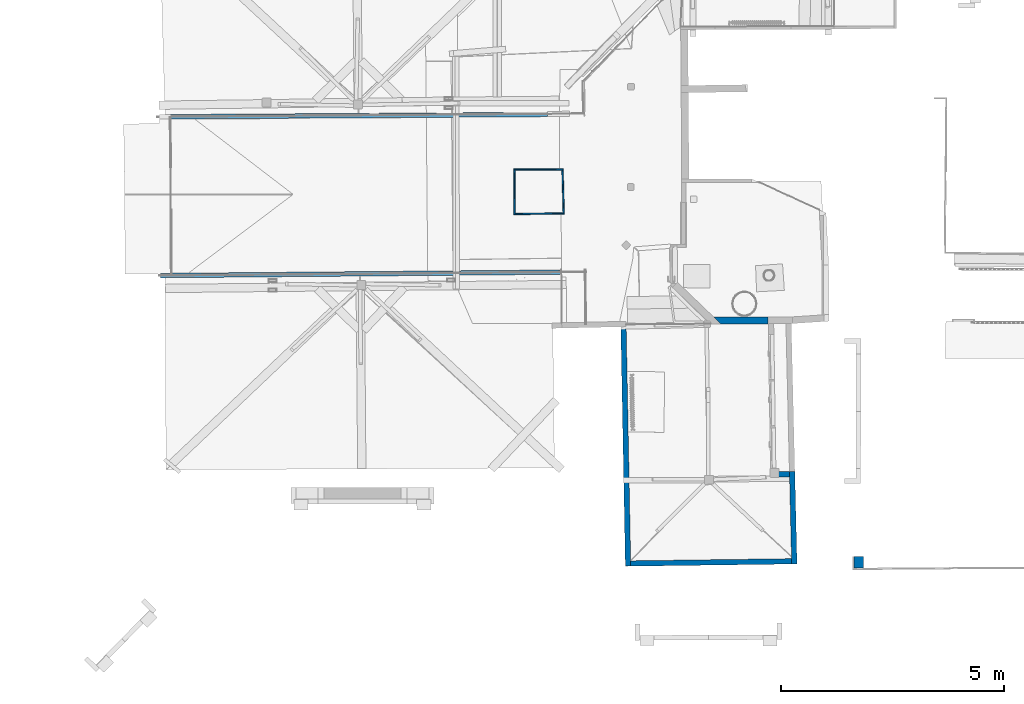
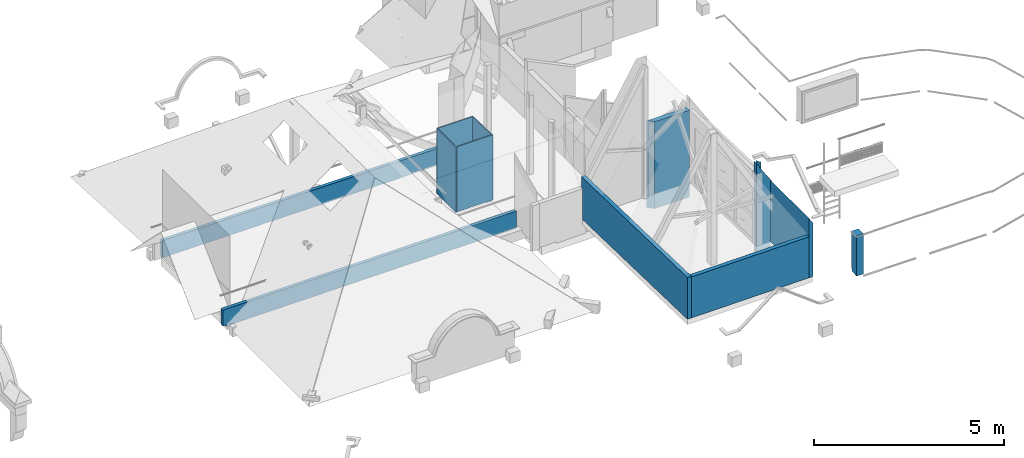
# One storey, part 9 of 39: 12 walls.
"""IFC2X3 building model written with IfcOpenShell, lengths in centimetres."""

from ifc_helpers import new_model, entity, si_unit, converted_unit, direction, frame, origin, origin_with_axes, origin_2d_with_axis, place, context, subcontext, project, spatial, polyline, rectangle, outline, extrude, clip, bounded_halfspace, material, layer, layer_set, layer_usage, type_object, element, save


model = new_model("IFC2X3")

# Units and contexts
model_context = context("Model", 3, precision=0.0001, world=origin(), true_north=direction((0.225632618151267, 0.974212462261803, 0.0)))
body_context = subcontext(model_context, "Body", "Model", "MODEL_VIEW")
ifc_project = project(units=[si_unit("LENGTHUNIT", "METRE", prefix="CENTI"), si_unit("AREAUNIT", "SQUARE_METRE", prefix="CENTI"), si_unit("VOLUMEUNIT", "CUBIC_METRE", prefix="CENTI"), converted_unit("PLANEANGLEUNIT", "DEGREE", entity("IfcRatioMeasure", 0.0174532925), si_unit("PLANEANGLEUNIT", "RADIAN"), dimensions=[0, 0, 0, 0, 0, 0, 0])], contexts=[model_context])

# Site, building, storey
site_placement = place(None, origin_with_axes())
site = spatial("IfcSite", under=ifc_project, at=site_placement, Name="Default Site", CompositionType="ELEMENT")
building_placement = place(site_placement, origin_with_axes())
building = spatial("IfcBuilding", under=site, at=building_placement, Name="Default Building", CompositionType="ELEMENT")
storey_placement = place(building_placement, frame((0.0, 0.0, 1088.91037418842), z_axis=(0.0, 0.0, 1.0), x_axis=(1.0, 0.0, 0.0)))
storey = spatial("IfcBuildingStorey", under=building, at=storey_placement, Name="Mezzanine", CompositionType="ELEMENT", Elevation=1088.91037418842)

# Walls
ifc_material = material(Name="<aucun>")
ifc_layer_1 = layer(ifc_material, 26.0)
ifc_layer_set_1 = layer_set([ifc_layer_1], Name="default")
ifc_layer_usage_1 = layer_usage(ifc_layer_set_1, "AXIS2", "POSITIVE", -13.0)
wall_type_1 = type_object("IfcWallType", Name="default 260", PredefinedType="NOTDEFINED", material=ifc_layer_set_1)
wall_1_placement = place(storey_placement, frame((894.34988198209, -887.212375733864, 10.0000000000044), z_axis=(0.0, 0.0, 1.0), x_axis=(0.999986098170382, 0.00527289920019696, 0.0)))
element("IfcWallStandardCase", 1, at=wall_1_placement, inside=storey, type_object=wall_type_1, material=ifc_layer_usage_1, Name="Enveloppe 564896", context=body_context, shape_type="Clipping", body=[
    clip(clip(extrude(rectangle(XDim=20.7548290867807, YDim=25.9993728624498, at=origin_2d_with_axis()), frame((10.2584785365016, -3.5527136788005e-13, -3.5527136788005e-13), z_axis=(0.0, 0.0, 1.0), x_axis=(0.999999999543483, -3.02164642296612e-05, 0.0)), (0.0, 0.0, 1.0), 129.891354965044), bounded_halfspace(frame((5.32907051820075e-13, 12.9999999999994, 9.99999999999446), z_axis=(0.0, 0.0, 1.0), x_axis=(1.0, 7.65046880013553e-13, 0.0)), True, frame((5.32907051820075e-13, 12.9999999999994, 9.99999999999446), z_axis=(0.0, 0.0, 1.0), x_axis=(1.0, 0.0, 0.0)), polyline([(-0.118937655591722, -26.0000000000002), (-1.77635683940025e-13, -15.1145928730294), (-1.77635683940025e-13, -3.5527136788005e-13), (0.37068038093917, 5.32907051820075e-13), (-3.5527136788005e-13, -25.9999999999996), (-0.118937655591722, -26.0000000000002)]))), bounded_halfspace(frame((-0.118937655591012, -13.0000000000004, 11.9616258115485), z_axis=(0.0, 0.0, 1.0), x_axis=(6.83134104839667e-15, 1.0, 0.0)), True, frame((-0.118937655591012, -13.0000000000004, 11.9616258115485), z_axis=(0.0, 0.0, 1.0), x_axis=(1.0, 0.0, 0.0)), polyline([(-1.77635683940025e-13, -3.5527136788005e-13), (3.5527136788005e-13, 26.0), (0.118937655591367, 25.9999999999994), (0.118937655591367, 10.8854071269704), (-1.77635683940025e-13, -3.5527136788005e-13)]))),
])
ifc_layer_2 = layer(ifc_material, 3.0)
ifc_layer_set_2 = layer_set([ifc_layer_2], Name="default")
ifc_layer_usage_2 = layer_usage(ifc_layer_set_2, "AXIS2", "POSITIVE", -1.5)
wall_type_2 = type_object("IfcWallType", Name="default 30", PredefinedType="NOTDEFINED", material=ifc_layer_set_2)
wall_2_placement = place(storey_placement, frame((132.747315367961, -108.222562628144, 2.00000000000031), z_axis=(0.0, 0.0, 1.0), x_axis=(0.00605901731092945, 0.999981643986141, 0.0)))
element("IfcWallStandardCase", 2, at=wall_2_placement, inside=storey, type_object=wall_type_2, material=ifc_layer_usage_2, Name="Enveloppe 199234", context=body_context, shape_type="SweptSolid", body=[
    extrude(outline(polyline([(2.22044604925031e-14, 1.49999999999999), (0.0528833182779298, -1.50000000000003), (99.7871121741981, -1.49999999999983), (99.7627206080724, 1.50000000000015), (2.22044604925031e-14, 1.49999999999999)])), frame((0.0, 0.0, -3.5527136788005e-13), z_axis=(0.0, 0.0, 1.0), x_axis=(1.0, 0.0, 0.0)), (0.0, 0.0, 1.0), 209.709393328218),
])
ifc_layer_usage_3 = layer_usage(ifc_layer_set_2, "AXIS2", "POSITIVE", -1.5)
wall_3_placement = place(storey_placement, frame((131.222717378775, -106.713658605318, 1.99999999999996), z_axis=(0.0, 0.0, 1.0), x_axis=(0.999933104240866, 0.0115666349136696, 0.0)))
element("IfcWallStandardCase", 3, at=wall_3_placement, inside=storey, type_object=wall_type_2, material=ifc_layer_usage_3, Name="Enveloppe 199252", context=body_context, shape_type="SweptSolid", body=[
    extrude(outline(polyline([(3.00774212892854, -1.50000000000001), (113.733953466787, -1.50000000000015), (113.687661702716, 1.49999999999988), (3.06062544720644, 1.50000000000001), (3.00774212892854, -1.50000000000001)])), origin_with_axes(), (0.0, 0.0, 1.0), 209.709393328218),
])
ifc_layer_usage_4 = layer_usage(ifc_layer_set_2, "AXIS2", "POSITIVE", -1.5)
wall_4_placement = place(storey_placement, frame((131.873091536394, -6.95253743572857, 2.00000000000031), z_axis=(0.0, 0.0, 1.0), x_axis=(0.999997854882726, 0.00207128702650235, 0.0)))
element("IfcWallStandardCase", 4, at=wall_4_placement, inside=storey, type_object=wall_type_2, material=ifc_layer_usage_4, Name="Enveloppe 199183", context=body_context, shape_type="SweptSolid", body=[
    extrude(outline(polyline([(-0.02439156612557, -1.5), (107.425036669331, -1.50000000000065), (110.424104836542, -1.42523283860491), (110.351178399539, 1.49999999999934), (8.88178419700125e-14, 1.5), (-0.02439156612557, -1.5)])), frame((0.0, 0.0, -5.32907051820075e-13), z_axis=(0.0, 0.0, 1.0), x_axis=(1.0, 0.0, 0.0)), (0.0, 0.0, 1.0), 209.709393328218),
])
ifc_layer_usage_5 = layer_usage(ifc_layer_set_2, "AXIS2", "POSITIVE", -1.5)
wall_5_placement = place(storey_placement, frame((243.458459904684, -106.623778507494, 2.00000000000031), z_axis=(0.0, 0.0, 1.0), x_axis=(-0.0269929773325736, 0.999635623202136, 0.0)))
element("IfcWallStandardCase", 5, at=wall_5_placement, inside=storey, type_object=wall_type_2, material=ifc_layer_usage_5, Name="Enveloppe 199270", context=body_context, shape_type="SweptSolid", body=[
    extrude(outline(polyline([(98.4701220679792, 1.50000000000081), (2.73178406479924, 1.50000000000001), (2.68549230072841, -1.50000000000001), (98.4701220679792, -1.49999999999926), (98.4701220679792, 1.50000000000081)])), origin_with_axes(), (0.0, 0.0, 1.0), 209.709393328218),
])
ifc_layer_3 = layer(ifc_material, 12.0)
ifc_layer_set_3 = layer_set([ifc_layer_3], Name="default")
ifc_layer_usage_6 = layer_usage(ifc_layer_set_3, "AXIS2", "POSITIVE", -6.0)
wall_type_3 = type_object("IfcWallType", Name="default 120", PredefinedType="NOTDEFINED", material=ifc_layer_set_3)
wall_6_placement = place(storey_placement, frame((759.931755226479, -878.922044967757, 48.0000000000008), z_axis=(0.0, 0.0, 1.0), x_axis=(-0.0238008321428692, 0.999716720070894, 0.0)))
element("IfcWallStandardCase", 6, at=wall_6_placement, inside=storey, type_object=wall_type_3, material=ifc_layer_usage_6, Name="Enveloppe 1888248", context=body_context, shape_type="Clipping", body=[
    clip(clip(clip(clip(clip(extrude(outline(polyline([(195.561508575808, 6.00000000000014), (-11.9465070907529, 6.00000000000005), (-12.0710318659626, -5.99999999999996), (195.561508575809, -6.00000000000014), (195.561508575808, 6.00000000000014)])), frame((0.0, 0.0, -1.4210854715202e-12), z_axis=(0.0, 0.0, 1.0), x_axis=(1.0, 0.0, 0.0)), (0.0, 0.0, 1.0), 198.701489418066), bounded_halfspace(frame((117.332942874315, 5.99999999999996, 196.156012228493), z_axis=(0.0151284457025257, 0.851796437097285, -0.523654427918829), x_axis=(0.999582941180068, -5.62050406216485e-16, 0.0288780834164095)), True, frame((117.332942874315, 5.99999999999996, 196.156012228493), z_axis=(0.0, 0.0, 1.0), x_axis=(1.0, 0.0, 0.0)), polyline([(-117.332942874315, -11.9999999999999), (-25.2044993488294, -11.9999999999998), (0.0, 0.0), (-117.332942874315, 8.88178419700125e-14), (-117.332942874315, -11.9999999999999)]))), bounded_halfspace(frame((-1.77635683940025e-13, 5.99999999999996, 192.766247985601), z_axis=(0.0151284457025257, 0.851796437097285, -0.523654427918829), x_axis=(0.999582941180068, 2.57779908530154e-15, 0.0288780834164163)), True, frame((-1.77635683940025e-13, 5.99999999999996, 192.766247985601), z_axis=(0.0, 0.0, 1.0), x_axis=(1.0, 0.0, 0.0)), polyline([(-12.0710318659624, -11.9999999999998), (1.77635683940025e-13, -11.9999999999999), (0.0, 8.88178419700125e-14), (-11.9465070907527, 8.88178419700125e-14), (-12.0710318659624, -11.9999999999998)]))), bounded_halfspace(frame((195.561508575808, 6.00000000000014, 198.701489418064), z_axis=(0.017156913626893, 0.85062847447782, -0.525487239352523), x_axis=(-0.999467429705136, 6.93889390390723e-18, -0.032632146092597)), True, frame((195.561508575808, 6.00000000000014, 198.701489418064), z_axis=(0.0, 0.0, 1.0), x_axis=(1.0, 0.0, 0.0)), polyline([(-98.7967232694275, -12.0000000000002), (8.88178419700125e-14, -12.0000000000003), (8.88178419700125e-14, 0.0), (-73.5974778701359, -0.00179297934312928), (-98.7967232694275, -12.0000000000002)]))), bounded_halfspace(frame((121.967796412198, 6.00000000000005, 196.289913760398), z_axis=(0.0151284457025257, 0.851796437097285, -0.523654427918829), x_axis=(-0.999582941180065, -3.49095752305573e-14, -0.0288780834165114)), True, frame((121.967796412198, 6.00000000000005, 196.289913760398), z_axis=(0.0, 0.0, 1.0), x_axis=(1.0, 0.0, 0.0)), polyline([(-27.5132050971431, -11.9999999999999), (-25.1992434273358, -11.9982060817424), (0.0, 0.0), (-2.32625572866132, -8.88178419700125e-14), (-27.5132050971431, -11.9999999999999)]))), bounded_halfspace(frame((119.641540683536, 5.99999999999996, 196.222737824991), z_axis=(0.017156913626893, 0.85062847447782, -0.525487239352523), x_axis=(0.999467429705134, -4.21884749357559e-15, 0.0326321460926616)), True, frame((119.641540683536, 5.99999999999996, 196.222737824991), z_axis=(0.0, 0.0, 1.0), x_axis=(1.0, 0.0, 0.0)), polyline([(-27.5130971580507, -11.9999999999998), (-25.1869493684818, -11.9999999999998), (0.0, 0.0), (-2.30859780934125, -5.71986902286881e-11), (-27.5130971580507, -11.9999999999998)]))),
])
ifc_layer_usage_7 = layer_usage(ifc_layer_set_3, "AXIS2", "POSITIVE", -6.0)
wall_7_placement = place(storey_placement, frame((393.478853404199, -889.851143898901, 48.0000000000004), z_axis=(0.0, 0.0, 1.0), x_axis=(0.999909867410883, 0.0134259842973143, 0.0)))
element("IfcWallStandardCase", 7, at=wall_7_placement, inside=storey, type_object=wall_type_3, material=ifc_layer_usage_7, Name="Enveloppe 197447", context=body_context, shape_type="SweptSolid", body=[
    extrude(outline(polyline([(2.22044604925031e-13, 6.00000000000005), (0.0683991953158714, -6.00000000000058), (360.690892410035, -6.00000000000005), (360.566367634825, 6.00000000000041), (2.22044604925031e-13, 6.00000000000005)])), frame((0.0, 0.0, -1.24344978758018e-12), z_axis=(0.0, 0.0, 1.0), x_axis=(1.0, 0.0, 0.0)), (0.0, 0.0, 1.0), 132.004751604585),
])
ifc_layer_usage_8 = layer_usage(ifc_layer_set_3, "AXIS2", "POSITIVE", -6.0)
wall_8_placement = place(storey_placement, frame((719.012437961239, -690.281011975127, 1.06581410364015e-12), z_axis=(0.0, 0.0, 1.0), x_axis=(0.999716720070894, 0.023800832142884, 0.0)))
element("IfcWallStandardCase", 8, at=wall_8_placement, inside=storey, type_object=wall_type_3, material=ifc_layer_usage_8, Name="Enveloppe 198085", context=body_context, shape_type="Clipping", body=[
    clip(clip(clip(clip(clip(clip(clip(extrude(outline(polyline([(-11.8963290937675, 6.00000000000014), (-12.0004517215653, -6.00000000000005), (30.4179120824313, -6.00000000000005), (30.4179120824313, 5.99999999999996), (-11.8963290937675, 6.00000000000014)])), frame((0.0, 0.0, -1.06581410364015e-12), z_axis=(0.0, 0.0, 1.0), x_axis=(1.0, 0.0, 0.0)), (0.0, 0.0, 1.0), 315.246018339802), bounded_halfspace(frame((8.88178419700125e-14, 6.00000000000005, 295.940253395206), z_axis=(-0.85062847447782, 0.0171569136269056, -0.525487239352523), x_axis=(-5.22151766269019e-15, -0.999467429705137, -0.0326321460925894)), True, frame((8.88178419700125e-14, 6.00000000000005, 295.940253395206), z_axis=(0.0, 0.0, 1.0), x_axis=(1.0, 0.0, 0.0)), polyline([(8.88178419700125e-14, -9.70866640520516), (1.09489844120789, -11.9999999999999), (30.4179120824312, -12.0000000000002), (30.4179120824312, -1.77635683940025e-13), (0.0, 0.0), (8.88178419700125e-14, -9.70866640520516)]))), bounded_halfspace(frame((-11.8963290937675, 6.00000000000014, 315.246018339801), z_axis=(-0.851796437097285, 0.0151284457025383, -0.523654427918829), x_axis=(-0.347973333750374, 0.730875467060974, 0.587141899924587)), True, frame((-11.8963290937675, 6.00000000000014, 315.246018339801), z_axis=(0.0, 0.0, 1.0), x_axis=(1.0, 0.0, 0.0)), polyline([(-0.104122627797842, -12.0000000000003), (10.7826925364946, -12.0000000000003), (5.06943467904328, -8.88178419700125e-14), (0.0, 8.88178419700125e-14), (-0.104122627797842, -12.0000000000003)]))), bounded_halfspace(frame((8.88178419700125e-14, -3.70866640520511, 295.614507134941), z_axis=(-0.851796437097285, 0.0151284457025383, -0.523654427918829), x_axis=(2.11844430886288e-14, -0.999582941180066, -0.0288780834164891)), True, frame((8.88178419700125e-14, -3.70866640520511, 295.614507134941), z_axis=(0.0, 0.0, 1.0), x_axis=(1.0, 0.0, 0.0)), polyline([(0.0, -2.29133359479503), (1.09098017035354, -2.29133359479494), (8.88178419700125e-14, 0.0), (0.0, -2.29133359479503)]))), bounded_halfspace(frame((-4.62261913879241, 5.99999999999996, 303.423082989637), z_axis=(-0.85062847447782, 0.0171569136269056, -0.525487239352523), x_axis=(0.347984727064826, -0.730855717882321, -0.587159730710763)), True, frame((-4.62261913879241, 5.99999999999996, 303.423082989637), z_axis=(0.0, 0.0, 1.0), x_axis=(1.0, 0.0, 0.0)), polyline([(8.88178419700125e-14, -8.88178419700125e-14), (4.62261913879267, -9.70866640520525), (4.62261913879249, 8.88178419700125e-14), (8.88178419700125e-14, -8.88178419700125e-14)]))), bounded_halfspace(frame((-5.71958846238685, 6.00000000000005, 305.198793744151), z_axis=(-0.85062847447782, 0.0171569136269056, -0.525487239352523), x_axis=(0.525564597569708, -1.03277802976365e-12, -0.850753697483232)), True, frame((-5.71958846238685, 6.00000000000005, 305.198793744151), z_axis=(0.0, 0.0, 1.0), x_axis=(1.0, 0.0, 0.0)), polyline([(0.0, -8.88178419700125e-14), (5.71958846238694, -12.0000000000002), (5.71958846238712, -9.70866640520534), (1.09696932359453, -1.77635683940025e-13), (0.0, -8.88178419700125e-14)]))), bounded_halfspace(frame((-6.82689441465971, 5.9999999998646, 306.991236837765), z_axis=(-0.85062847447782, 0.0171569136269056, -0.525487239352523), x_axis=(-0.52556459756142, -6.49392293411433e-11, 0.850753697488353)), True, frame((-6.82689441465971, 5.9999999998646, 306.991236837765), z_axis=(0.0, 0.0, 1.0), x_axis=(1.0, 0.0, 0.0)), polyline([(-8.88178419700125e-14, 8.88178419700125e-14), (5.71325785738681, -11.9999999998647), (6.81045544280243, -11.9999998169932), (1.0968698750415, 1.35447209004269e-10), (-8.88178419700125e-14, 8.88178419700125e-14)]))), bounded_halfspace(frame((-5.73002453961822, 6.00000000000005, 305.215670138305), z_axis=(-0.851796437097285, 0.0151284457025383, -0.523654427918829), x_axis=(-0.34797337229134, 0.730875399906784, 0.58714196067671)), True, frame((-5.73002453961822, 6.00000000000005, 305.215670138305), z_axis=(0.0, 0.0, 1.0), x_axis=(1.0, 0.0, 0.0)), polyline([(0.0, 0.0), (5.71358565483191, -12.0), (0.0, 0.0)]))),
])
ifc_layer_usage_9 = layer_usage(ifc_layer_set_3, "AXIS2", "POSITIVE", -6.0)
wall_9_placement = place(storey_placement, frame((387.629073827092, -895.973535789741, 48.0000000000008), z_axis=(0.0, 0.0, 1.0), x_axis=(-0.0191250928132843, 0.999817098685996, 0.0)))
element("IfcWallStandardCase", 9, at=wall_9_placement, inside=storey, type_object=wall_type_3, material=ifc_layer_usage_9, Name="Enveloppe 195886", context=body_context, shape_type="Clipping", body=[
    clip(clip(extrude(outline(polyline([(541.632469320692, 5.99999999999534), (0.0, 5.99999999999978), (3.32927516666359e-06, -5.99982595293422), (0.0775013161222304, 5.99999999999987), (0.00910212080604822, -6.00000000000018), (541.505007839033, -6.0000000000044), (541.632469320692, 5.99999999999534)])), frame((0.0, 0.0, -1.59872115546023e-12), z_axis=(0.0, 0.0, 1.0), x_axis=(1.0, 0.0, 0.0)), (0.0, 0.0, 1.0), 134.702416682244), bounded_halfspace(frame((541.505007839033, -6.0000000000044, 98.7024166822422), z_axis=(0.0, 0.0, 1.0), x_axis=(-1.0, 9.96425164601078e-15, 0.0)), True, frame((541.505007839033, -6.0000000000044, 98.7024166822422), z_axis=(0.0, 0.0, 1.0), x_axis=(1.0, 0.0, 0.0)), polyline([(-4.78073138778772, 11.9999999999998), (0.127461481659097, 11.9999999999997), (8.88178419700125e-14, 0.0), (-4.74533867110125, 4.44089209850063e-14), (-4.78073138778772, 11.9999999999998)]))), bounded_halfspace(frame((0.0, 5.99999999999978, 132.004751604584), z_axis=(0.0, 0.0, 1.0), x_axis=(1.0, -9.81516951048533e-13, 0.0)), True, frame((0.0, 5.99999999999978, 132.004751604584), z_axis=(0.0, 0.0, 1.0), x_axis=(1.0, 0.0, 0.0)), polyline([(0.0, -12.0), (0.0, 0.0), (0.0775013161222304, -4.44089209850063e-14), (0.0, -12.0)]))),
])
ifc_layer_4 = layer(ifc_material, 15.0)
ifc_layer_set_4 = layer_set([ifc_layer_4], Name="default")
ifc_layer_usage_10 = layer_usage(ifc_layer_set_4, "AXIS2", "POSITIVE", -7.5)
wall_type_4 = type_object("IfcWallType", Name="default 150", PredefinedType="NOTDEFINED", material=ifc_layer_set_4)
wall_10_placement = place(storey_placement, frame((572.421510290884, -345.343978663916, 1.06581410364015e-12), z_axis=(0.0, 0.0, 1.0), x_axis=(0.999998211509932, 0.00189128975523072, 0.0)))
element("IfcWallStandardCase", 10, at=wall_10_placement, inside=storey, type_object=wall_type_4, material=ifc_layer_usage_10, Name="Enveloppe 197218", context=body_context, shape_type="SweptSolid", body=[
    extrude(outline(polyline([(7.48838059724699, 7.49999999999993), (23.0711792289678, -7.50000000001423), (129.320821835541, -7.50000000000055), (129.320821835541, 7.49999999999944), (7.48838059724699, 7.49999999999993)])), frame((0.0, 0.0, -7.105427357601e-13), z_axis=(0.0, 0.0, 1.0), x_axis=(1.0, 0.0, 0.0)), (0.0, 0.0, 1.0), 279.702416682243),
])
ifc_layer_5 = layer(ifc_material, 10.0)
ifc_layer_set_5 = layer_set([ifc_layer_5], Name="default")
ifc_layer_usage_11 = layer_usage(ifc_layer_set_5, "AXIS2", "POSITIVE", -5.0)
wall_type_5 = type_object("IfcWallType", Name="default 100", PredefinedType="NOTDEFINED", material=ifc_layer_set_5)
wall_11_placement = place(storey_placement, frame((-659.936867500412, -244.613644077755, -4.99999999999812), z_axis=(0.0, 0.0, 1.0), x_axis=(0.999963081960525, 0.00859271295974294, 0.0)))
element("IfcWallStandardCase", 11, at=wall_11_placement, inside=storey, type_object=wall_type_5, material=ifc_layer_usage_11, Name="Enveloppe 192057", context=body_context, shape_type="Clipping", body=[
    clip(clip(clip(extrude(outline(polyline([(24.2012073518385, 4.99999999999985), (-0.000958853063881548, 5.00000000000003), (-0.0601987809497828, -4.99999999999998), (24.2012073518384, -5.00000000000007), (898.387451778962, -4.99840619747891), (898.572927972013, -5.00000000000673), (898.422947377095, 3.08564801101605), (898.431354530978, 4.99999999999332), (24.2012073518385, 4.99999999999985)])), frame((0.0, 0.0, -7.105427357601e-13), z_axis=(0.0, 0.0, 1.0), x_axis=(1.0, 0.0, 0.0)), (0.0, 0.0, 1.0), 55.0000000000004), bounded_halfspace(frame((-0.000958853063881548, 5.00000000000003, 4.00756440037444), z_axis=(0.0, 0.0, 1.0), x_axis=(1.0, -4.56752691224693e-15, 0.0)), True, frame((-0.000958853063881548, 5.00000000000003, 4.00756440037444), z_axis=(0.0, 0.0, 1.0), x_axis=(1.0, 0.0, 0.0)), polyline([(-0.0592399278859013, -10.0), (0.0, 0.0), (10.1503527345, -4.44089209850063e-14), (10.1730816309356, -10.0000000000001), (-0.0592399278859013, -10.0)]))), bounded_halfspace(frame((898.387438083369, 4.99999999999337, 4.99999999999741), z_axis=(0.0, 0.0, 1.0), x_axis=(1.0, -2.1975130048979e-13, 0.0)), True, frame((898.387438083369, 4.99999999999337, 4.99999999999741), z_axis=(0.0, 0.0, 1.0), x_axis=(1.0, 0.0, 0.0)), polyline([(1.77635683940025e-13, 0.0), (0.0439164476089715, -4.44089209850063e-14), (0.0355092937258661, -1.91435198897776), (1.77635683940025e-13, 0.0)]))), bounded_halfspace(frame((898.422947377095, 3.08564801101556, 4.99999999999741), z_axis=(0.0, 0.0, -1.0), x_axis=(-0.00439160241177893, -0.999990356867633, 0.0)), True, frame((898.422947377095, 3.08564801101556, 4.99999999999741), z_axis=(0.0, 0.0, 1.0), x_axis=(1.0, 0.0, 0.0)), polyline([(-0.0355092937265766, -8.08564801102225), (0.149980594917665, -8.0856480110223), (0.0, 4.44089209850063e-14), (-0.0355092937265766, -8.08564801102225)]))),
])
ifc_layer_usage_12 = layer_usage(ifc_layer_set_5, "AXIS2", "POSITIVE", -5.0)
wall_12_placement = place(storey_placement, frame((-637.987205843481, 111.33163433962, -4.99999999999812), z_axis=(0.0, 0.0, 1.0), x_axis=(0.99998227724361, 0.00595358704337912, 0.0)))
element("IfcWallStandardCase", 12, at=wall_12_placement, inside=storey, type_object=wall_type_5, material=ifc_layer_usage_12, Name="Enveloppe 201194", context=body_context, shape_type="Clipping", body=[
    clip(extrude(outline(polyline([(0.00312910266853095, 5.0), (0.00312910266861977, -5.00000000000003), (845.238457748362, -4.99988918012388), (845.224732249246, 6.99941516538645), (845.12781932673, 6.99999215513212), (845.13010621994, 5.0000000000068), (0.00312910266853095, 5.0)])), frame((0.0, 0.0, -3.5527136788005e-13), z_axis=(0.0, 0.0, 1.0), x_axis=(1.0, 0.0, 0.0)), (0.0, 0.0, 1.0), 55.0000000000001), bounded_halfspace(frame((845.138457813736, -5.00000352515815, 4.99999999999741), z_axis=(0.0, 0.0, 1.0), x_axis=(0.000308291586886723, 0.999999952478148, 0.0)), True, frame((845.138457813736, -5.00000352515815, 4.99999999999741), z_axis=(0.0, 0.0, 1.0), x_axis=(1.0, 0.0, 0.0)), polyline([(-0.0106384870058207, 11.9999956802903), (0.0862785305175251, 12.0001065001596), (0.0999999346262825, 0.00011434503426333), (1.77635683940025e-13, 0.0), (0.00308291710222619, 10.000003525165), (-0.00835159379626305, 10.000003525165), (-0.0106384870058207, 11.9999956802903)]))),
])

save(model, "model.ifc")
